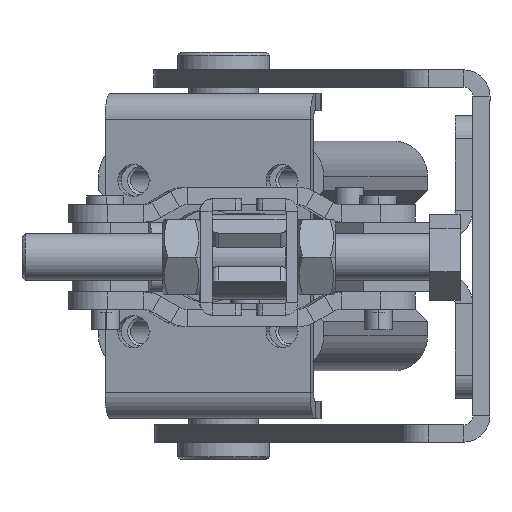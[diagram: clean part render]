
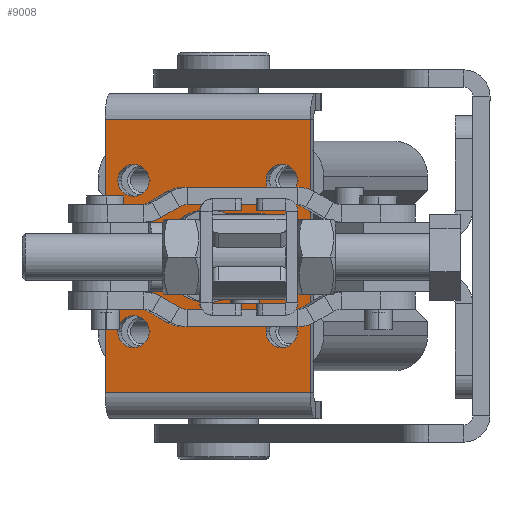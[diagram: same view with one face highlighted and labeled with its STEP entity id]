
A CAD part, left-side view. The second image highlights one B-rep face of the part: STEP entity #9008.
In plain terms, the highlighted planar face has unit normal (-0.98, 0.201, 0) as drawn and (0, -1, 0) by its records, which use the part's own axes.
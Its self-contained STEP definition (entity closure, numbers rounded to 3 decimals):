
#177 = AXIS2_PLACEMENT_3D ( 'NONE', #19867, #16404, #21625 ) ;
#196 = FACE_BOUND ( 'NONE', #17697, .T. ) ;
#201 = DIRECTION ( 'NONE',  ( 0., 1., 0. ) ) ;
#571 = CARTESIAN_POINT ( 'NONE',  ( 13., -3., -13. ) ) ;
#573 = ORIENTED_EDGE ( 'NONE', *, *, #18705, .T. ) ;
#1119 = CARTESIAN_POINT ( 'NONE',  ( -13., -3., 13. ) ) ;
#1247 = CIRCLE ( 'NONE', #7664, 8. ) ;
#1568 = DIRECTION ( 'NONE',  ( 0., 0., 1. ) ) ;
#1590 = CARTESIAN_POINT ( 'NONE',  ( -13., -3., 15.75 ) ) ;
#1752 = EDGE_CURVE ( 'NONE', #13963, #16271, #21826, .T. ) ;
#1876 = CARTESIAN_POINT ( 'NONE',  ( 13., -3., 13. ) ) ;
#2035 = EDGE_CURVE ( 'NONE', #9137, #13623, #16951, .T. ) ;
#2157 = LINE ( 'NONE', #17910, #19948 ) ;
#2217 = ORIENTED_EDGE ( 'NONE', *, *, #1752, .T. ) ;
#2293 = DIRECTION ( 'NONE',  ( 0., 0., 1. ) ) ;
#2352 = AXIS2_PLACEMENT_3D ( 'NONE', #571, #12649, #2293 ) ;
#2516 = VERTEX_POINT ( 'NONE', #5604 ) ;
#2602 = CIRCLE ( 'NONE', #2352, 2.75 ) ;
#2699 = EDGE_LOOP ( 'NONE', ( #4093, #22226, #14152, #21441 ) ) ;
#2768 = CIRCLE ( 'NONE', #14003, 8. ) ;
#2808 = ORIENTED_EDGE ( 'NONE', *, *, #9581, .T. ) ;
#2841 = CARTESIAN_POINT ( 'NONE',  ( 13., -3., -13. ) ) ;
#3099 = CIRCLE ( 'NONE', #5084, 2.75 ) ;
#3345 = VECTOR ( 'NONE', #20983, 1000. ) ;
#3449 = DIRECTION ( 'NONE',  ( 0., 1., 0. ) ) ;
#3494 = CARTESIAN_POINT ( 'NONE',  ( 23.5, -3., -18. ) ) ;
#3604 = DIRECTION ( 'NONE',  ( 0., 0., 1. ) ) ;
#3659 = VERTEX_POINT ( 'NONE', #14109 ) ;
#4093 = ORIENTED_EDGE ( 'NONE', *, *, #5088, .F. ) ;
#4235 = ORIENTED_EDGE ( 'NONE', *, *, #21090, .T. ) ;
#4381 = VERTEX_POINT ( 'NONE', #6095 ) ;
#4765 = FACE_BOUND ( 'NONE', #8206, .T. ) ;
#4804 = EDGE_CURVE ( 'NONE', #16763, #3659, #7968, .T. ) ;
#4815 = VERTEX_POINT ( 'NONE', #12402 ) ;
#5084 = AXIS2_PLACEMENT_3D ( 'NONE', #22238, #11924, #1568 ) ;
#5088 = EDGE_CURVE ( 'NONE', #3659, #10357, #2157, .T. ) ;
#5157 = DIRECTION ( 'NONE',  ( 0., 1., 0. ) ) ;
#5282 = AXIS2_PLACEMENT_3D ( 'NONE', #13812, #3449, #15526 ) ;
#5470 = CARTESIAN_POINT ( 'NONE',  ( -32.168, -3., 18. ) ) ;
#5604 = CARTESIAN_POINT ( 'NONE',  ( -13., -3., -10.25 ) ) ;
#6095 = CARTESIAN_POINT ( 'NONE',  ( -13., -3., -15.75 ) ) ;
#6859 = EDGE_LOOP ( 'NONE', ( #9400, #12462 ) ) ;
#7664 = AXIS2_PLACEMENT_3D ( 'NONE', #15467, #5157, #17203 ) ;
#7968 = LINE ( 'NONE', #5470, #3345 ) ;
#8011 = EDGE_CURVE ( 'NONE', #16763, #20502, #14476, .T. ) ;
#8061 = EDGE_CURVE ( 'NONE', #17810, #4815, #1247, .T. ) ;
#8206 = EDGE_LOOP ( 'NONE', ( #11101, #10816 ) ) ;
#8323 = CARTESIAN_POINT ( 'NONE',  ( 13., -3., -10.25 ) ) ;
#8372 = CARTESIAN_POINT ( 'NONE',  ( -13., -3., -13. ) ) ;
#8624 = CARTESIAN_POINT ( 'NONE',  ( -23.5, -3., -18. ) ) ;
#8823 = FACE_BOUND ( 'NONE', #14693, .T. ) ;
#9008 = ADVANCED_FACE ( 'NONE', ( #13404, #8823, #4765, #196, #22030, #17431 ), #18140, .F. ) ;
#9137 = VERTEX_POINT ( 'NONE', #18516 ) ;
#9400 = ORIENTED_EDGE ( 'NONE', *, *, #10904, .T. ) ;
#9581 = EDGE_CURVE ( 'NONE', #4381, #2516, #3099, .T. ) ;
#9817 = VERTEX_POINT ( 'NONE', #17699 ) ;
#9916 = VECTOR ( 'NONE', #15322, 1000. ) ;
#10061 = LINE ( 'NONE', #21630, #14625 ) ;
#10110 = DIRECTION ( 'NONE',  ( 0., 0., 1. ) ) ;
#10148 = CIRCLE ( 'NONE', #5282, 2.75 ) ;
#10217 = DIRECTION ( 'NONE',  ( 0., 1., 0. ) ) ;
#10357 = VERTEX_POINT ( 'NONE', #3494 ) ;
#10409 = ORIENTED_EDGE ( 'NONE', *, *, #16247, .T. ) ;
#10521 = CARTESIAN_POINT ( 'NONE',  ( 0., -3., 0. ) ) ;
#10583 = ORIENTED_EDGE ( 'NONE', *, *, #16960, .T. ) ;
#10816 = ORIENTED_EDGE ( 'NONE', *, *, #2035, .T. ) ;
#10904 = EDGE_CURVE ( 'NONE', #4815, #17810, #2768, .T. ) ;
#10975 = AXIS2_PLACEMENT_3D ( 'NONE', #1876, #13973, #3604 ) ;
#11101 = ORIENTED_EDGE ( 'NONE', *, *, #15876, .T. ) ;
#11429 = AXIS2_PLACEMENT_3D ( 'NONE', #8372, #20409, #10110 ) ;
#11728 = VERTEX_POINT ( 'NONE', #21597 ) ;
#11924 = DIRECTION ( 'NONE',  ( 0., 1., 0. ) ) ;
#12251 = DIRECTION ( 'NONE',  ( 0., 0., 1. ) ) ;
#12402 = CARTESIAN_POINT ( 'NONE',  ( 0., -3., 8. ) ) ;
#12462 = ORIENTED_EDGE ( 'NONE', *, *, #8061, .T. ) ;
#12630 = DIRECTION ( 'NONE',  ( 0., 1., 0. ) ) ;
#12649 = DIRECTION ( 'NONE',  ( 0., 1., 0. ) ) ;
#13202 = DIRECTION ( 'NONE',  ( 0., 1., 0. ) ) ;
#13404 = FACE_BOUND ( 'NONE', #20700, .T. ) ;
#13501 = AXIS2_PLACEMENT_3D ( 'NONE', #20512, #10217, #22265 ) ;
#13623 = VERTEX_POINT ( 'NONE', #8323 ) ;
#13812 = CARTESIAN_POINT ( 'NONE',  ( -13., -3., 13. ) ) ;
#13963 = VERTEX_POINT ( 'NONE', #15984 ) ;
#13973 = DIRECTION ( 'NONE',  ( 0., 1., 0. ) ) ;
#14003 = AXIS2_PLACEMENT_3D ( 'NONE', #10521, #201, #12251 ) ;
#14109 = CARTESIAN_POINT ( 'NONE',  ( 23.5, -3., 18. ) ) ;
#14152 = ORIENTED_EDGE ( 'NONE', *, *, #8011, .T. ) ;
#14476 = LINE ( 'NONE', #22186, #9916 ) ;
#14534 = DIRECTION ( 'NONE',  ( 0., 0., -1. ) ) ;
#14625 = VECTOR ( 'NONE', #16478, 1000. ) ;
#14693 = EDGE_LOOP ( 'NONE', ( #573, #10409 ) ) ;
#14905 = CIRCLE ( 'NONE', #10975, 2.75 ) ;
#14918 = DIRECTION ( 'NONE',  ( 0., 0., 1. ) ) ;
#15322 = DIRECTION ( 'NONE',  ( 0., 0., -1. ) ) ;
#15467 = CARTESIAN_POINT ( 'NONE',  ( 0., -3., 0. ) ) ;
#15526 = DIRECTION ( 'NONE',  ( 0., 0., 1. ) ) ;
#15876 = EDGE_CURVE ( 'NONE', #13623, #9137, #2602, .T. ) ;
#15984 = CARTESIAN_POINT ( 'NONE',  ( -13., -3., 10.25 ) ) ;
#15988 = AXIS2_PLACEMENT_3D ( 'NONE', #1119, #13202, #14918 ) ;
#16247 = EDGE_CURVE ( 'NONE', #9817, #11728, #17966, .T. ) ;
#16271 = VERTEX_POINT ( 'NONE', #1590 ) ;
#16404 = DIRECTION ( 'NONE',  ( 0., 1., 0. ) ) ;
#16478 = DIRECTION ( 'NONE',  ( -1., 0., 0. ) ) ;
#16662 = DIRECTION ( 'NONE',  ( 0., 0., 1. ) ) ;
#16701 = AXIS2_PLACEMENT_3D ( 'NONE', #2841, #12630, #16662 ) ;
#16763 = VERTEX_POINT ( 'NONE', #21861 ) ;
#16951 = CIRCLE ( 'NONE', #16701, 2.75 ) ;
#16960 = EDGE_CURVE ( 'NONE', #16271, #13963, #10148, .T. ) ;
#17203 = DIRECTION ( 'NONE',  ( 0., 0., 1. ) ) ;
#17431 = FACE_BOUND ( 'NONE', #6859, .T. ) ;
#17697 = EDGE_LOOP ( 'NONE', ( #4235, #2808 ) ) ;
#17699 = CARTESIAN_POINT ( 'NONE',  ( 13., -3., 10.25 ) ) ;
#17810 = VERTEX_POINT ( 'NONE', #17969 ) ;
#17910 = CARTESIAN_POINT ( 'NONE',  ( 23.5, -3., -3.767 ) ) ;
#17966 = CIRCLE ( 'NONE', #13501, 2.75 ) ;
#17969 = CARTESIAN_POINT ( 'NONE',  ( 0., -3., -8. ) ) ;
#18140 = PLANE ( 'NONE',  #177 ) ;
#18516 = CARTESIAN_POINT ( 'NONE',  ( 13., -3., -15.75 ) ) ;
#18705 = EDGE_CURVE ( 'NONE', #11728, #9817, #14905, .T. ) ;
#19048 = EDGE_CURVE ( 'NONE', #10357, #20502, #10061, .T. ) ;
#19867 = CARTESIAN_POINT ( 'NONE',  ( 39.5, -3., -3.767 ) ) ;
#19948 = VECTOR ( 'NONE', #14534, 1000. ) ;
#20409 = DIRECTION ( 'NONE',  ( 0., 1., 0. ) ) ;
#20502 = VERTEX_POINT ( 'NONE', #8624 ) ;
#20512 = CARTESIAN_POINT ( 'NONE',  ( 13., -3., 13. ) ) ;
#20700 = EDGE_LOOP ( 'NONE', ( #10583, #2217 ) ) ;
#20983 = DIRECTION ( 'NONE',  ( 1., 0., 0. ) ) ;
#21090 = EDGE_CURVE ( 'NONE', #2516, #4381, #21755, .T. ) ;
#21441 = ORIENTED_EDGE ( 'NONE', *, *, #19048, .F. ) ;
#21597 = CARTESIAN_POINT ( 'NONE',  ( 13., -3., 15.75 ) ) ;
#21625 = DIRECTION ( 'NONE',  ( 0., 0., 1. ) ) ;
#21630 = CARTESIAN_POINT ( 'NONE',  ( 32.168, -3., -18. ) ) ;
#21755 = CIRCLE ( 'NONE', #11429, 2.75 ) ;
#21826 = CIRCLE ( 'NONE', #15988, 2.75 ) ;
#21861 = CARTESIAN_POINT ( 'NONE',  ( -23.5, -3., 18. ) ) ;
#22030 = FACE_OUTER_BOUND ( 'NONE', #2699, .T. ) ;
#22186 = CARTESIAN_POINT ( 'NONE',  ( -23.5, -3., -3.767 ) ) ;
#22226 = ORIENTED_EDGE ( 'NONE', *, *, #4804, .F. ) ;
#22238 = CARTESIAN_POINT ( 'NONE',  ( -13., -3., -13. ) ) ;
#22265 = DIRECTION ( 'NONE',  ( 0., 0., 1. ) ) ;
